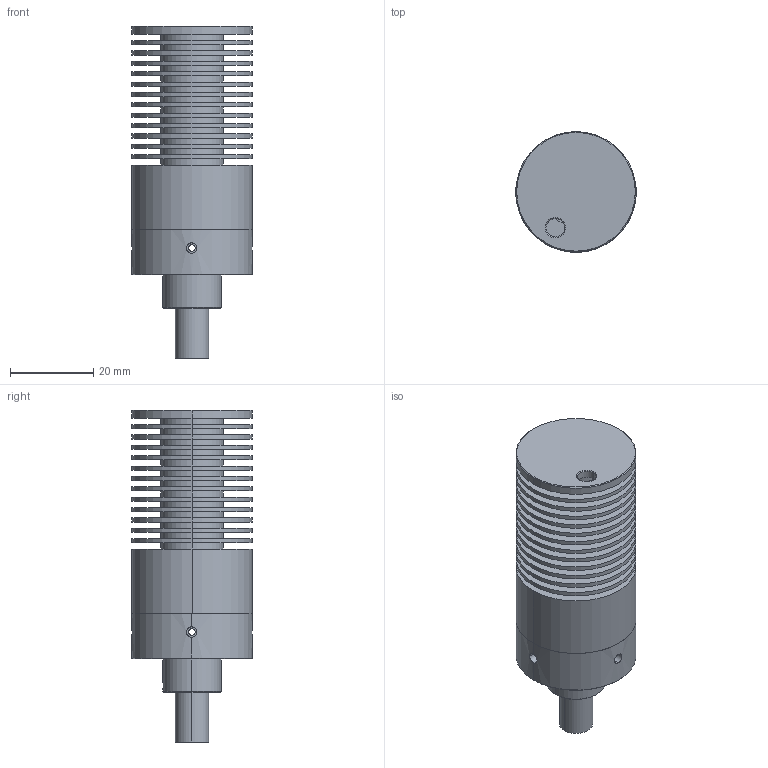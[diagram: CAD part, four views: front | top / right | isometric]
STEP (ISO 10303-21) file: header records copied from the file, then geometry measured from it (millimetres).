
FILE_DESCRIPTION (( 'STEP AP203' ), '1' );
FILE_NAME ('ILS-W20A-D29.STEP', '2023-09-01T10:19:28', ( '' ), ( '' ), 'SwSTEP 2.0', 'SolidWorks 2023', '' );
FILE_SCHEMA (( 'CONFIG_CONTROL_DESIGN' ));
Length unit declared in the file: millimetre
Products named in the file (4): RodLens_7-15; ILS-W20A-D29; Spot_Base_ThermalFin; FrontCase
Assembly tree (3 placements, depth 2):
  ILS-W20A-D29
    Spot_Base_ThermalFin
    FrontCase
    RodLens_7-15
Bounding box: 29 x 29 x 80 mm (x, y, z)
Volume: 25518.6 mm3; surface area: 22970.2 mm2
Topology: 3 solids, 3 shells, 184 faces, 414 edges, 268 vertices
Faces by surface type: cylinder 126, plane 44, cone 14
Entity records: 5982 total; most frequent: CARTESIAN_POINT 1196, DIRECTION 1008, ORIENTED_EDGE 820, AXIS2_PLACEMENT_3D 432, EDGE_CURVE 410, VERTEX_POINT 268, EDGE_LOOP 260, CIRCLE 242
